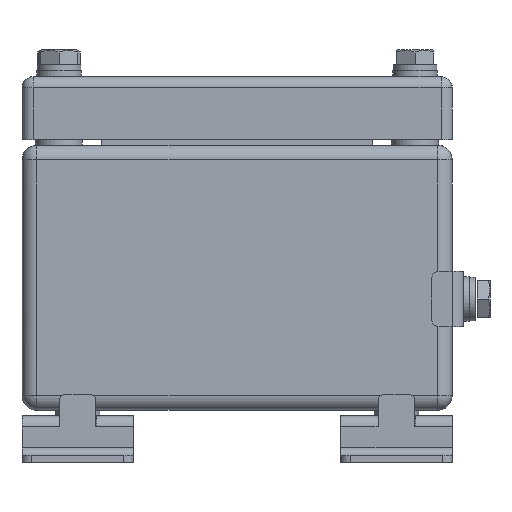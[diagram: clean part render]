
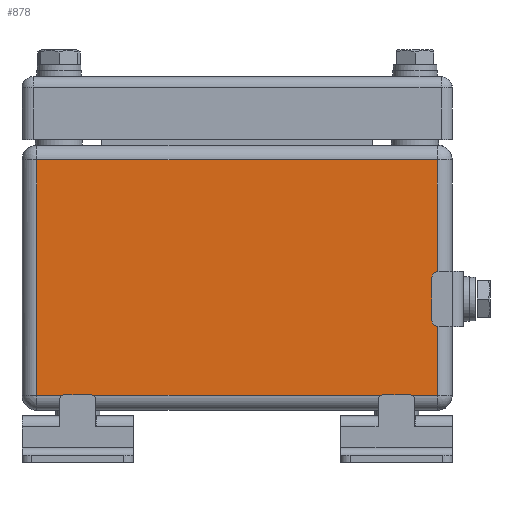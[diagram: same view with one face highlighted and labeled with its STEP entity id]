
A CAD part, front view. The second image highlights one B-rep face of the part: STEP entity #878.
In plain terms, the highlighted planar face has unit normal (0, -1, 0).
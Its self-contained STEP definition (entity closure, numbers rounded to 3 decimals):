
#342=CARTESIAN_POINT('',(54.0,-88.,67.5));
#343=VERTEX_POINT('',#342);
#436=CARTESIAN_POINT('',(54.0,-88.,4.0));
#437=VERTEX_POINT('',#436);
#492=CARTESIAN_POINT('',(54.0,-88.,67.5));
#493=DIRECTION('',(0.0,0.0,-1.0));
#494=VECTOR('',#493,63.5);
#495=LINE('',#492,#494);
#496=EDGE_CURVE('',#343,#437,#495,.T.);
#524=CARTESIAN_POINT('',(-54.0,-88.,67.5));
#525=VERTEX_POINT('',#524);
#559=CARTESIAN_POINT('',(-54.0,-88.,4.0));
#560=VERTEX_POINT('',#559);
#591=CARTESIAN_POINT('',(54.0,-88.,4.0));
#592=DIRECTION('',(-1.0,0.0,0.0));
#593=VECTOR('',#592,108.0);
#594=LINE('',#591,#593);
#595=EDGE_CURVE('',#437,#560,#594,.T.);
#613=CARTESIAN_POINT('',(-54.0,-88.,4.0));
#614=DIRECTION('',(0.0,0.0,1.0));
#615=VECTOR('',#614,63.5);
#616=LINE('',#613,#615);
#617=EDGE_CURVE('',#560,#525,#616,.T.);
#650=CARTESIAN_POINT('',(-54.0,-88.,67.5));
#651=DIRECTION('',(1.0,0.0,0.0));
#652=VECTOR('',#651,108.0);
#653=LINE('',#650,#652);
#654=EDGE_CURVE('',#525,#343,#653,.T.);
#867=CARTESIAN_POINT('',(58.,-88.,0.0));
#868=DIRECTION('',(0.0,-1.0,0.0));
#869=DIRECTION('',(0.0,0.0,-1.0));
#870=AXIS2_PLACEMENT_3D('',#867,#868,#869);
#871=PLANE('',#870);
#872=ORIENTED_EDGE('',*,*,#496,.F.);
#873=ORIENTED_EDGE('',*,*,#654,.F.);
#874=ORIENTED_EDGE('',*,*,#617,.F.);
#875=ORIENTED_EDGE('',*,*,#595,.F.);
#876=EDGE_LOOP('',(#872,#873,#874,#875));
#877=FACE_OUTER_BOUND('',#876,.T.);
#878=ADVANCED_FACE('',(#877),#871,.T.);
